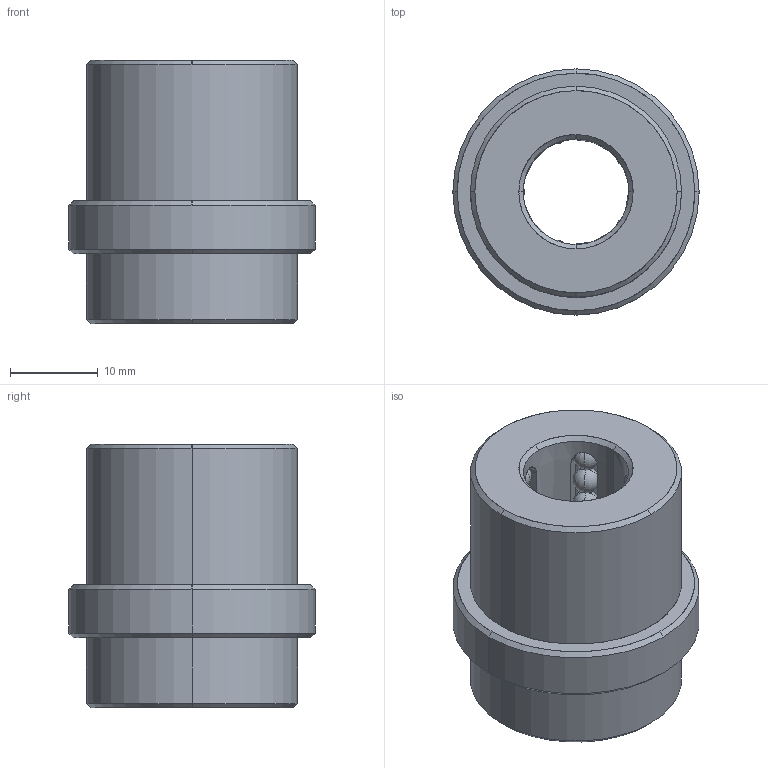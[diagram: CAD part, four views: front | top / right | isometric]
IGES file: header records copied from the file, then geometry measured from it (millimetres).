
Start section: START RECORD GO HERE.
Global section: file name: B8021222.igs; native system: DASSAULT SYSTEMES CATIA V5 R20 - www.3ds.com; preprocessor: CATIA Version 5 Release 20 ; author: Utente; organization: NB04-ASUS; date: 20200419.150428; units: millimetre
Bounding box: 28 x 28 x 30 mm (x, y, z)
Surface area: 6312.7 mm2 (no closed solid volume)
Topology: 0 solids, 0 shells, 221 faces, 934 edges, 614 vertices
Faces by surface type: revolution 202, plane 19
